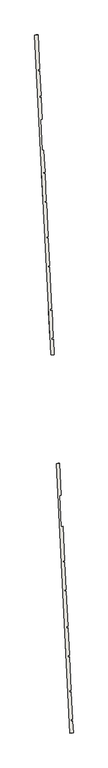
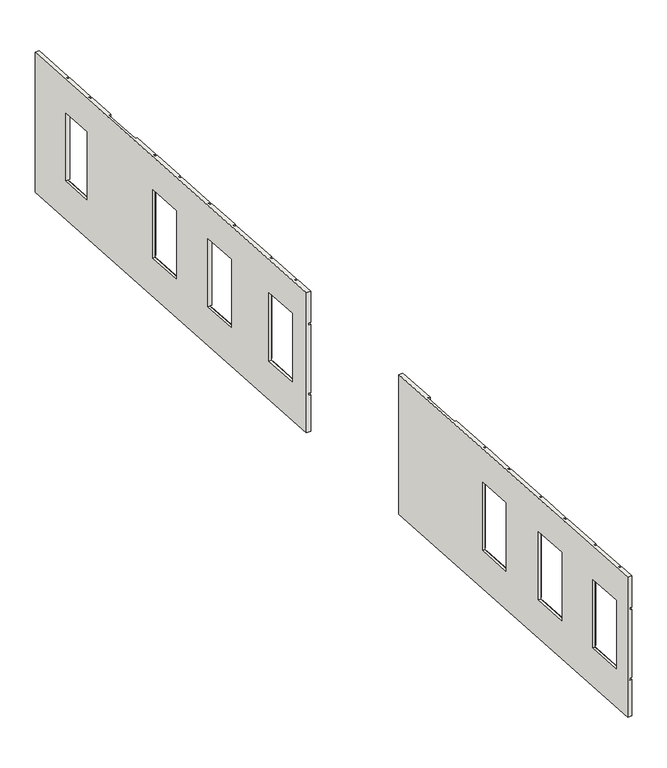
"""IFC4 building model written with IfcOpenShell, lengths in millimetres: wall geometry, kamposite : kamposite."""

from ifc_helpers import new_model, si_unit, origin, place, context, project, spatial, faceted_brep, source, transform, mapped, element, save


def wall_0bbe5232(model_context):
    return source(origin(), model_context, "Body", "Brep", [
        faceted_brep([(13372.7715568, -13203.3324529, 6000.0), (13353.306831, -12820.9275904, 6000.0), (13353.306831, -12820.9275904, 6911.5733633), (13372.7715568, -13203.3324529, 6911.5733633), (13353.306831, -12820.9275904, 9500.0), (13372.7715568, -13203.3324529, 9500.0), (13372.7715568, -13203.3324529, 8720.5733633), (13353.306831, -12820.9275904, 8720.5733633), (13094.4833823, -7736.0706906, 9500.0), (13139.1735864, -8614.0564136, 9500.0), (13139.1735864, -8614.0564136, 8720.5733633), (13094.4833823, -7736.0706906, 8720.5733633), (13141.7153374, -8663.9917669, 9500.0), (13199.2035253, -9793.4072435, 9500.0), (13199.2035253, -9793.4072435, 8720.5733633), (13141.7153374, -8663.9917669, 8720.5733633), (13201.7452764, -9843.3425967, 9500.0), (13246.4354805, -10721.3283197, 9500.0), (13246.4354805, -10721.3283197, 8720.5733633), (13201.7452764, -9843.3425967, 8720.5733633), (13248.9772315, -10771.2636729, 9500.0), (13303.5331248, -11843.0711609, 9500.0), (13303.5331248, -11843.0711609, 8720.5733633), (13248.9772315, -10771.2636729, 8720.5733633), (13306.0748759, -11893.0065142, 9500.0), (13350.76508, -12770.9922372, 9500.0), (13350.76508, -12770.9922372, 8720.5733633), (13306.0748759, -11893.0065142, 8720.5733633), (13139.1735864, -8614.0564136, 6000.0), (13094.4833823, -7736.0706906, 6000.0), (13094.4833823, -7736.0706906, 6911.5733633), (13139.1735864, -8614.0564136, 6911.5733633), (13199.2035253, -9793.4072435, 6000.0), (13141.7153374, -8663.9917669, 6000.0), (13141.7153374, -8663.9917669, 6911.5733633), (13199.2035253, -9793.4072435, 6911.5733633), (13246.4354805, -10721.3283197, 6000.0), (13201.7452764, -9843.3425967, 6000.0), (13201.7452764, -9843.3425967, 6911.5733633), (13246.4354805, -10721.3283197, 6911.5733633), (13303.5331248, -11843.0711609, 6000.0), (13248.9772315, -10771.2636729, 6000.0), (13248.9772315, -10771.2636729, 6911.5733633), (13303.5331248, -11843.0711609, 6911.5733633), (13350.76508, -12770.9922372, 6000.0), (13306.0748759, -11893.0065142, 6000.0), (13306.0748759, -11893.0065142, 6911.5733633), (13350.76508, -12770.9922372, 6911.5733633), (13350.6602996, -12768.9337164, 8670.0), (13306.0748759, -11893.0065142, 8670.0), (13306.0748759, -11893.0065142, 8670.5733633), (13350.76508, -12770.9922372, 8670.5733633), (13350.76508, -12770.9922372, 6961.5733633), (13350.6602996, -12768.9337164, 6961.5733633), (13246.4354805, -10721.3283197, 8670.0), (13201.7452764, -9843.3425967, 8670.0), (13201.7452764, -9843.3425967, 8670.5733633), (13246.4354805, -10721.3283197, 8670.5733633), (13139.1735864, -8614.0564136, 8670.0), (13094.4833823, -7736.0706906, 8670.0), (13094.4833823, -7736.0706906, 8670.5733633), (13139.1735864, -8614.0564136, 8670.5733633), (12933.6170031, -4575.6827045, 6000.0), (12933.6170031, -4575.6827045, 6911.5733633), (12985.7398324, -5599.6901091, 6911.5733633), (12985.7398324, -5599.6901091, 6000.0), (12933.6170031, -4575.6827045, 8720.5733633), (12933.6170031, -4575.6827045, 9500.0), (12985.7398324, -5599.6901091, 9500.0), (12985.7398324, -5599.6901091, 8720.5733633), (12933.6170031, -4575.6827045, 6961.5733633), (12933.6170031, -4575.6827045, 8670.5733633), (12985.7398324, -5599.6901091, 8670.5733633), (12985.7398324, -5599.6901091, 6961.5733633), (13091.9416312, -7686.1353374, 6911.5733633), (13091.9416312, -7686.1353374, 6000.0), (13036.3776474, -6594.5228575, 6000.0), (13036.3776474, -6594.5228575, 6911.5733633), (13091.9416312, -7686.1353374, 9500.0), (13091.9416312, -7686.1353374, 8720.5733633), (13036.3776474, -6594.5228575, 8720.5733633), (13036.3776474, -6594.5228575, 9500.0), (13091.9416312, -7686.1353374, 8670.5733633), (13091.9416312, -7686.1353374, 6961.5733633), (13036.3776474, -6594.5228575, 6961.5733633), (13036.3776474, -6594.5228575, 8670.5733633), (13199.2035253, -9793.4072435, 8670.5733633), (13199.2035253, -9793.4072435, 6961.5733633), (13141.7153374, -8663.9917669, 6961.5733633), (13141.7153374, -8663.9917669, 8670.5733633), (13303.5331248, -11843.0711609, 8670.5733633), (13303.5331248, -11843.0711609, 6961.5733633), (13248.9772315, -10771.2636729, 6961.5733633), (13248.9772315, -10771.2636729, 8670.5733633), (13372.7715568, -13203.3324529, 8670.5733633), (13372.7715568, -13203.3324529, 6961.5733633), (13353.306831, -12820.9275904, 6961.5733633), (13353.306831, -12820.9275904, 8670.5733633), (12833.7462967, -4580.7662066, 9500.0), (12833.7462967, -4580.7662066, 6000.0), (13272.9008504, -13208.415955, 6000.0), (13272.9008504, -13208.415955, 9500.0), (13206.0547747, -11895.1550017, 8670.0), (13250.7895931, -12774.0172185, 8670.0), (13250.7895931, -12774.0172185, 6960.0), (13206.0547747, -11895.1550017, 6960.0), (13101.8429819, -9847.8055195, 8670.0), (13146.5778003, -10726.6677363, 8670.0), (13146.5778003, -10726.6677363, 6960.0), (13101.8429819, -9847.8055195, 6960.0), (12994.5810878, -7740.5336135, 8670.0), (13039.3159062, -8619.3958302, 8670.0), (13039.3159062, -8619.3958302, 6960.0), (12994.5810878, -7740.5336135, 6960.0), (13303.3714778, -12823.4693414, 9500.0), (13300.8297268, -12773.5339882, 9500.0), (13256.1395226, -11895.5482652, 9500.0), (13253.5977716, -11845.612912, 9500.0), (13199.0418783, -10773.805424, 9500.0), (13196.5001272, -10723.8700707, 9500.0), (13151.8099231, -9845.8843478, 9500.0), (13149.2681721, -9795.9489945, 9500.0), (13091.7799842, -8666.5335179, 9500.0), (13089.2382332, -8616.5981647, 9500.0), (13044.5480291, -7738.6124417, 9500.0), (13042.006278, -7688.6770885, 9500.0), (12986.4422941, -6597.0646086, 9500.0), (12935.8044792, -5602.2318601, 9500.0), (13322.8362036, -13205.874204, 6911.5733633), (13322.8362036, -13205.874204, 6961.5733633), (13322.8362036, -13205.874204, 8670.5733633), (13322.8362036, -13205.874204, 8720.5733633), (12935.8044792, -5602.2318601, 6000.0), (12986.4422941, -6597.0646086, 6000.0), (13042.006278, -7688.6770885, 6000.0), (13044.5480291, -7738.6124417, 6000.0), (13089.2382332, -8616.5981647, 6000.0), (13091.7799842, -8666.5335179, 6000.0), (13149.2681721, -9795.9489945, 6000.0), (13151.8099231, -9845.8843478, 6000.0), (13196.5001272, -10723.8700707, 6000.0), (13199.0418783, -10773.805424, 6000.0), (13253.5977716, -11845.612912, 6000.0), (13256.1395226, -11895.5482652, 6000.0), (13300.8297268, -12773.5339882, 6000.0), (13303.3714778, -12823.4693414, 6000.0), (12883.6816499, -4578.2244556, 8720.5733633), (12883.6816499, -4578.2244556, 8670.5733633), (12883.6816499, -4578.2244556, 6961.5733633), (12883.6816499, -4578.2244556, 6911.5733633), (13255.9901279, -11892.6132507, 6960.0), (13255.9901279, -11892.6132507, 8670.0), (13300.7249463, -12771.4754674, 6960.0), (13300.7249463, -12771.4754674, 6961.5733633), (13256.1395226, -11895.5482652, 8670.0), (13151.7783351, -9845.2637685, 6960.0), (13151.7783351, -9845.2637685, 8670.0), (13196.5131535, -10724.1259852, 6960.0), (13196.5131535, -10724.1259852, 8670.0), (13151.8099231, -9845.8843478, 8670.0), (13196.5001272, -10723.8700707, 8670.0), (13044.5164411, -7737.9918624, 6960.0), (13044.5164411, -7737.9918624, 8670.0), (13089.2512594, -8616.8540792, 6960.0), (13089.2512594, -8616.8540792, 8670.0), (13044.5480291, -7738.6124417, 8670.0), (13089.2382332, -8616.5981647, 8670.0), (13044.5480291, -7738.6124417, 8720.5733633), (13089.2382332, -8616.5981647, 8720.5733633), (13091.7799842, -8666.5335179, 8720.5733633), (13149.2681721, -9795.9489945, 8720.5733633), (13151.8099231, -9845.8843478, 8720.5733633), (13196.5001272, -10723.8700707, 8720.5733633), (13199.0418783, -10773.805424, 8720.5733633), (13253.5977716, -11845.612912, 8720.5733633), (13256.1395226, -11895.5482652, 8720.5733633), (13300.8297268, -12773.5339882, 8720.5733633), (13303.3714778, -12823.4693414, 8720.5733633), (13303.3714778, -12823.4693414, 8670.5733633), (13303.3714778, -12823.4693414, 6961.5733633), (13303.3714778, -12823.4693414, 6911.5733633), (13300.8297268, -12773.5339882, 6911.5733633), (13256.1395226, -11895.5482652, 6911.5733633), (13253.5977716, -11845.612912, 6911.5733633), (13199.0418783, -10773.805424, 6911.5733633), (13196.5001272, -10723.8700707, 6911.5733633), (13151.8099231, -9845.8843478, 6911.5733633), (13149.2681721, -9795.9489945, 6911.5733633), (13091.7799842, -8666.5335179, 6911.5733633), (13089.2382332, -8616.5981647, 6911.5733633), (13044.5480291, -7738.6124417, 6911.5733633), (13042.006278, -7688.6770885, 6911.5733633), (12986.4422941, -6597.0646086, 6911.5733633), (12935.8044792, -5602.2318601, 6911.5733633), (12935.8044792, -5602.2318601, 6961.5733633), (12935.8044792, -5602.2318601, 8670.5733633), (12935.8044792, -5602.2318601, 8720.5733633), (12986.4422941, -6597.0646086, 8720.5733633), (13042.006278, -7688.6770885, 8720.5733633), (13300.8297268, -12773.5339882, 6961.5733633), (13300.8297268, -12773.5339882, 8670.5733633), (13256.1395226, -11895.5482652, 8670.5733633), (13196.5001272, -10723.8700707, 8670.5733633), (13151.8099231, -9845.8843478, 8670.5733633), (13089.2382332, -8616.5981647, 8670.5733633), (13044.5480291, -7738.6124417, 8670.5733633), (13091.7799842, -8666.5335179, 8670.5733633), (13091.7799842, -8666.5335179, 6961.5733633), (13149.2681721, -9795.9489945, 6961.5733633), (13149.2681721, -9795.9489945, 8670.5733633), (13199.0418783, -10773.805424, 8670.5733633), (13199.0418783, -10773.805424, 6961.5733633), (13253.5977716, -11845.612912, 6961.5733633), (13253.5977716, -11845.612912, 8670.5733633), (13042.006278, -7688.6770885, 8670.5733633), (12986.4422941, -6597.0646086, 8670.5733633), (12986.4422941, -6597.0646086, 6961.5733633), (13042.006278, -7688.6770885, 6961.5733633)], [[[0, 1, 2, 3]], [[4, 5, 6, 7]], [[8, 9, 10, 11]], [[12, 13, 14, 15]], [[16, 17, 18, 19]], [[20, 21, 22, 23]], [[24, 25, 26, 27]], [[28, 29, 30, 31]], [[32, 33, 34, 35]], [[36, 37, 38, 39]], [[40, 41, 42, 43]], [[44, 45, 46, 47]], [[48, 49, 50, 51, 52, 53]], [[54, 55, 56, 57]], [[58, 59, 60, 61]], [[62, 63, 64, 65]], [[66, 67, 68, 69]], [[70, 71, 72, 73]], [[74, 75, 76, 77]], [[78, 79, 80, 81]], [[82, 83, 84, 85]], [[86, 87, 88, 89]], [[90, 91, 92, 93]], [[94, 95, 96, 97]], [[98, 99, 100, 101], [102, 103, 104, 105], [106, 107, 108, 109], [110, 111, 112, 113]], [[98, 101, 5, 4, 114, 115, 25, 24, 116, 117, 21, 20, 118, 119, 17, 16, 120, 121, 13, 12, 122, 123, 9, 8, 124, 125, 78, 81, 126, 127, 68, 67]], [[101, 100, 0, 3, 128, 129, 95, 94, 130, 131, 6, 5]], [[100, 99, 62, 65, 132, 133, 76, 75, 134, 135, 29, 28, 136, 137, 33, 32, 138, 139, 37, 36, 140, 141, 41, 40, 142, 143, 45, 44, 144, 145, 1, 0]], [[99, 98, 67, 66, 146, 147, 71, 70, 148, 149, 63, 62]], [[102, 105, 150, 151]], [[105, 104, 152, 150]], [[104, 103, 48, 53, 153, 152]], [[103, 102, 151, 154, 49, 48]], [[106, 109, 155, 156]], [[109, 108, 157, 155]], [[108, 107, 158, 157]], [[107, 106, 156, 159, 55, 54, 160, 158]], [[110, 113, 161, 162]], [[113, 112, 163, 161]], [[112, 111, 164, 163]], [[111, 110, 162, 165, 59, 58, 166, 164]], [[125, 124, 167, 168, 123, 122, 169, 170, 121, 120, 171, 172, 119, 118, 173, 174, 117, 116, 175, 176, 115, 114, 177, 131, 130, 178, 179, 129, 128, 180, 145, 144, 181, 182, 143, 142, 183, 184, 141, 140, 185, 186, 139, 138, 187, 188, 137, 136, 189, 190, 135, 134, 191, 192, 133, 132, 193, 149, 148, 194, 195, 147, 146, 196, 127, 126, 197, 198], [154, 151, 150, 152, 153, 199, 200, 201], [159, 156, 155, 157, 158, 160, 202, 203], [165, 162, 161, 163, 164, 166, 204, 205], [206, 207, 208, 209], [210, 211, 212, 213], [214, 215, 216, 217]], [[124, 8, 11, 167]], [[29, 135, 190, 30]], [[59, 165, 205, 60]], [[83, 82, 214, 217]], [[78, 125, 198, 79]], [[134, 75, 74, 191]], [[89, 88, 207, 206]], [[122, 12, 15, 169]], [[33, 137, 188, 34]], [[9, 123, 168, 10]], [[136, 28, 31, 189]], [[166, 58, 61, 204]], [[120, 16, 19, 171]], [[37, 139, 186, 38]], [[55, 159, 203, 56]], [[87, 86, 209, 208]], [[13, 121, 170, 14]], [[138, 32, 35, 187]], [[93, 92, 211, 210]], [[118, 20, 23, 173]], [[41, 141, 184, 42]], [[17, 119, 172, 18]], [[140, 36, 39, 185]], [[160, 54, 57, 202]], [[116, 24, 27, 175]], [[45, 143, 182, 46]], [[49, 154, 201, 50]], [[91, 90, 213, 212]], [[21, 117, 174, 22]], [[142, 40, 43, 183]], [[97, 96, 179, 178]], [[114, 4, 7, 177]], [[1, 145, 180, 2]], [[52, 51, 200, 199]], [[25, 115, 176, 26]], [[144, 44, 47, 181]], [[148, 70, 73, 194]], [[199, 153, 53, 52]], [[208, 207, 88, 87]], [[212, 211, 92, 91]], [[83, 217, 216, 84]], [[129, 179, 96, 95]], [[63, 149, 193, 64]], [[182, 181, 47, 46]], [[184, 183, 43, 42]], [[186, 185, 39, 38]], [[188, 187, 35, 34]], [[190, 189, 31, 30]], [[191, 74, 77, 192]], [[180, 128, 3, 2]], [[146, 66, 69, 196]], [[168, 167, 11, 10]], [[170, 169, 15, 14]], [[172, 171, 19, 18]], [[174, 173, 23, 22]], [[176, 175, 27, 26]], [[79, 198, 197, 80]], [[131, 177, 7, 6]], [[71, 147, 195, 72]], [[201, 200, 51, 50]], [[203, 202, 57, 56]], [[205, 204, 61, 60]], [[206, 209, 86, 89]], [[210, 213, 90, 93]], [[214, 82, 85, 215]], [[178, 130, 94, 97]], [[133, 192, 77, 76]], [[197, 126, 81, 80]], [[216, 215, 85, 84]], [[193, 132, 65, 64]], [[195, 194, 73, 72]], [[127, 196, 69, 68]]]),
        faceted_brep([(12334.7985206, 7188.7316375, 8660.0), (12294.384679, 7982.7037538, 8660.0), (12294.384679, 7982.7037538, 6961.5733633), (12294.2460013, 7985.4282216, 6961.5733633), (12294.2460013, 7985.4282216, 8670.5733633), (12334.8694038, 7187.3390638, 8670.5733633), (12334.8694038, 7187.3390638, 6961.5733633), (12334.7985206, 7188.7316375, 6961.5733633), (12731.730894, -609.4192918, 9500.0), (12756.4224718, -1094.5111191, 9500.0), (12756.4224718, -1094.5111191, 8720.5733633), (12731.730894, -609.4192918, 8720.5733633), (12684.4989388, 318.5017844, 9500.0), (12729.1891429, -559.4839386, 9500.0), (12729.1891429, -559.4839386, 8720.5733633), (12684.4989388, 318.5017844, 8720.5733633), (12614.0478206, 1702.5875625, 9500.0), (12681.9571878, 368.4371376, 9500.0), (12681.9571878, 368.4371376, 8720.5733633), (12614.0478206, 1702.5875625, 8720.5733633), (12566.8158655, 2630.5086387, 9500.0), (12611.5060696, 1752.5229157, 9500.0), (12611.5060696, 1752.5229157, 8720.5733633), (12566.8158655, 2630.5086387, 8720.5733633), (12509.0735025, 3764.9176506, 9500.0), (12564.2741144, 2680.4439919, 9500.0), (12564.2741144, 2680.4439919, 8720.5733633), (12509.0735025, 3764.9176506, 8720.5733633), (12461.8415473, 4692.8387269, 9500.0), (12506.5317514, 3814.8530039, 9500.0), (12506.5317514, 3814.8530039, 8720.5733633), (12461.8415473, 4692.8387269, 8720.5733633), (12235.5361304, 9138.844937, 9500.0), (12291.7042503, 8035.3635748, 9500.0), (12291.7042503, 8035.3635748, 8720.5733633), (12235.5361304, 9138.844937, 8720.5733633), (12294.2460013, 7985.4282216, 9500.0), (12334.8694038, 7187.3390638, 9500.0), (12334.8694038, 7187.3390638, 8720.5733633), (12294.2460013, 7985.4282216, 8720.5733633), (12756.4224718, -1094.5111191, 6000.0), (12731.730894, -609.4192918, 6000.0), (12731.730894, -609.4192918, 6911.5733633), (12756.4224718, -1094.5111191, 6911.5733633), (12729.1891429, -559.4839386, 6000.0), (12684.4989388, 318.5017844, 6000.0), (12684.4989388, 318.5017844, 6911.5733633), (12729.1891429, -559.4839386, 6911.5733633), (12681.9571878, 368.4371376, 6000.0), (12614.0478206, 1702.5875625, 6000.0), (12614.0478206, 1702.5875625, 6911.5733633), (12681.9571878, 368.4371376, 6911.5733633), (12611.5060696, 1752.5229157, 6000.0), (12566.8158655, 2630.5086387, 6000.0), (12566.8158655, 2630.5086387, 6911.5733633), (12611.5060696, 1752.5229157, 6911.5733633), (12564.2741144, 2680.4439919, 6000.0), (12509.0735025, 3764.9176506, 6000.0), (12509.0735025, 3764.9176506, 6911.5733633), (12564.2741144, 2680.4439919, 6911.5733633), (12506.5317514, 3814.8530039, 6000.0), (12461.8415473, 4692.8387269, 6000.0), (12461.8415473, 4692.8387269, 6911.5733633), (12506.5317514, 3814.8530039, 6911.5733633), (12291.7042503, 8035.3635748, 6000.0), (12235.5361304, 9138.844937, 6000.0), (12235.5361304, 9138.844937, 8670.5733633), (12291.7042503, 8035.3635748, 8670.5733633), (12291.7042503, 8035.3635748, 6961.5733633), (12235.558487, 9138.4057197, 6961.5733633), (12235.558487, 9138.4057197, 6911.5733633), (12291.7042503, 8035.3635748, 6911.5733633), (12334.8694038, 7187.3390638, 6000.0), (12294.2460013, 7985.4282216, 6000.0), (12294.2460013, 7985.4282216, 6911.5733633), (12334.8694038, 7187.3390638, 6911.5733633), (12729.1891429, -559.4839386, 8670.0), (12684.4989388, 318.5017844, 8670.0), (12684.4989388, 318.5017844, 8670.5733633), (12729.1891429, -559.4839386, 8670.5733633), (12611.5060696, 1752.5229157, 8670.0), (12567.0384526, 2626.1356827, 8670.0), (12567.0384526, 2626.1356827, 6961.5733633), (12566.8158655, 2630.5086387, 6961.5733633), (12566.8158655, 2630.5086387, 8670.5733633), (12611.5060696, 1752.5229157, 8670.5733633), (12506.5317514, 3814.8530039, 8670.0), (12461.8415473, 4692.8387269, 8670.0), (12461.8415473, 4692.8387269, 8670.5733633), (12506.5317514, 3814.8530039, 8670.5733633), (12756.4224718, -1094.5111191, 8670.5733633), (12756.4224718, -1094.5111191, 6961.5733633), (12731.730894, -609.4192918, 6961.5733633), (12731.730894, -609.4192918, 8670.5733633), (12681.9571878, 368.4371376, 8670.5733633), (12681.9571878, 368.4371376, 6961.5733633), (12614.0478206, 1702.5875625, 6961.5733633), (12614.0478206, 1702.5875625, 8670.5733633), (12564.2741144, 2680.4439919, 8670.5733633), (12564.2741144, 2680.4439919, 6961.5733633), (12509.0735025, 3764.9176506, 6961.5733633), (12509.0735025, 3764.9176506, 8670.5733633), (12459.2997963, 4742.7740801, 6911.5733633), (12459.2997963, 4742.7740801, 6000.0), (12423.674383, 5442.6725211, 6000.0), (12423.674383, 5442.6725211, 6911.5733633), (12459.2997963, 4742.7740801, 8670.5733633), (12459.2997963, 4742.7740801, 6961.5733633), (12423.674383, 5442.6725211, 6961.5733633), (12423.674383, 5442.6725211, 8670.5733633), (12459.2997963, 4742.7740801, 9500.0), (12459.2997963, 4742.7740801, 8720.5733633), (12423.674383, 5442.6725211, 8720.5733633), (12423.674383, 5442.6725211, 9500.0), (12337.4111548, 7137.4037105, 6000.0), (12337.4111548, 7137.4037105, 6911.5733633), (12373.0365681, 6437.5052695, 6911.5733633), (12373.0365681, 6437.5052695, 6000.0), (12337.4111548, 7137.4037105, 6961.5733633), (12337.4111548, 7137.4037105, 8670.5733633), (12373.0365681, 6437.5052695, 8670.5733633), (12373.0365681, 6437.5052695, 6961.5733633), (12337.4111548, 7137.4037105, 8720.5733633), (12337.4111548, 7137.4037105, 9500.0), (12373.0365681, 6437.5052695, 9500.0), (12373.0365681, 6437.5052695, 8720.5733633), (12135.665424, 9133.7614349, 9500.0), (12135.665424, 9133.7614349, 6000.0), (12656.5517653, -1099.5946212, 6000.0), (12656.5517653, -1099.5946212, 9500.0), (12194.5139726, 7977.6202517, 8660.0), (12234.9278142, 7183.6481354, 8660.0), (12234.9278142, 7183.6481354, 6960.0), (12194.5139726, 7977.6202517, 6960.0), (12584.5966444, 314.0388616, 8670.0), (12629.3314627, -564.8233551, 8670.0), (12629.3314627, -564.8233551, 6960.0), (12584.5966444, 314.0388616, 6960.0), (12467.1677461, 2621.0521806, 8670.0), (12511.9025645, 1742.1899638, 8670.0), (12511.9025645, 1742.1899638, 6960.0), (12467.1677461, 2621.0521806, 6960.0), (12361.9392529, 4688.375804, 8670.0), (12406.6740712, 3809.5135873, 8670.0), (12406.6740712, 3809.5135873, 6960.0), (12361.9392529, 4688.375804, 6960.0), (12681.7955408, -611.9610428, 9500.0), (12679.2537897, -562.0256896, 9500.0), (12634.5635856, 315.9600334, 9500.0), (12632.0218345, 365.8953866, 9500.0), (12564.1124674, 1700.0458114, 9500.0), (12561.5707163, 1749.9811647, 9500.0), (12516.8805122, 2627.9668877, 9500.0), (12514.3387612, 2677.9022409, 9500.0), (12459.1381493, 3762.3758996, 9500.0), (12456.5963982, 3812.3112528, 9500.0), (12411.9061941, 4690.2969758, 9500.0), (12409.364443, 4740.232329, 9500.0), (12373.7390298, 5440.13077, 9500.0), (12323.1012148, 6434.9635185, 9500.0), (12287.4758016, 7134.8619595, 9500.0), (12284.9340506, 7184.7973127, 9500.0), (12244.3106481, 7982.8864705, 9500.0), (12241.7688971, 8032.8218238, 9500.0), (12706.4871185, -1097.0528701, 6911.5733633), (12706.4871185, -1097.0528701, 6961.5733633), (12706.4871185, -1097.0528701, 8670.5733633), (12706.4871185, -1097.0528701, 8720.5733633), (12241.7688971, 8032.8218238, 6000.0), (12244.3106481, 7982.8864705, 6000.0), (12284.9340506, 7184.7973127, 6000.0), (12287.4758016, 7134.8619595, 6000.0), (12323.1012148, 6434.9635185, 6000.0), (12373.7390298, 5440.13077, 6000.0), (12409.364443, 4740.232329, 6000.0), (12411.9061941, 4690.2969758, 6000.0), (12456.5963982, 3812.3112528, 6000.0), (12459.1381493, 3762.3758996, 6000.0), (12514.3387612, 2677.9022409, 6000.0), (12516.8805122, 2627.9668877, 6000.0), (12561.5707163, 1749.9811647, 6000.0), (12564.1124674, 1700.0458114, 6000.0), (12632.0218345, 365.8953866, 6000.0), (12634.5635856, 315.9600334, 6000.0), (12679.2537897, -562.0256896, 6000.0), (12681.7955408, -611.9610428, 6000.0), (12185.6007772, 9136.3031859, 8720.5733633), (12185.6007772, 9136.3031859, 8670.5733633), (12244.4493258, 7980.1620027, 6960.0), (12244.4493258, 7980.1620027, 6961.5733633), (12284.8631674, 7186.1898865, 6960.0), (12284.8631674, 7186.1898865, 6961.5733633), (12634.5319976, 316.5806127, 6960.0), (12634.5319976, 316.5806127, 8670.0), (12679.266816, -562.2816041, 6960.0), (12679.266816, -562.2816041, 8670.0), (12634.5635856, 315.9600334, 8670.0), (12679.2537897, -562.0256896, 8670.0), (12517.1030993, 2623.5939316, 6960.0), (12517.1030993, 2623.5939316, 6961.5733633), (12561.8379177, 1744.7317149, 6960.0), (12561.8379177, 1744.7317149, 8670.0), (12561.5707163, 1749.9811647, 8670.0), (12411.8746061, 4690.9175551, 6960.0), (12411.8746061, 4690.9175551, 8670.0), (12456.6094245, 3812.0553383, 6960.0), (12456.6094245, 3812.0553383, 8670.0), (12411.9061941, 4690.2969758, 8670.0), (12456.5963982, 3812.3112528, 8670.0), (12634.5635856, 315.9600334, 8720.5733633), (12679.2537897, -562.0256896, 8720.5733633), (12681.7955408, -611.9610428, 8720.5733633), (12681.7955408, -611.9610428, 8670.5733633), (12681.7955408, -611.9610428, 6961.5733633), (12681.7955408, -611.9610428, 6911.5733633), (12679.2537897, -562.0256896, 6911.5733633), (12634.5635856, 315.9600334, 6911.5733633), (12632.0218345, 365.8953866, 6911.5733633), (12564.1124674, 1700.0458114, 6911.5733633), (12561.5707163, 1749.9811647, 6911.5733633), (12516.8805122, 2627.9668877, 6911.5733633), (12514.3387612, 2677.9022409, 6911.5733633), (12459.1381493, 3762.3758996, 6911.5733633), (12456.5963982, 3812.3112528, 6911.5733633), (12411.9061941, 4690.2969758, 6911.5733633), (12409.364443, 4740.232329, 6911.5733633), (12373.7390298, 5440.13077, 6911.5733633), (12323.1012148, 6434.9635185, 6911.5733633), (12287.4758016, 7134.8619595, 6911.5733633), (12284.9340506, 7184.7973127, 6911.5733633), (12244.3106481, 7982.8864705, 6911.5733633), (12241.7688971, 8032.8218238, 6911.5733633), (12185.6231337, 9135.8639687, 6911.5733633), (12185.6231337, 9135.8639687, 6961.5733633), (12241.7688971, 8032.8218238, 6961.5733633), (12241.7688971, 8032.8218238, 8670.5733633), (12241.7688971, 8032.8218238, 8720.5733633), (12244.3106481, 7982.8864705, 8720.5733633), (12284.9340506, 7184.7973127, 8720.5733633), (12287.4758016, 7134.8619595, 8720.5733633), (12323.1012148, 6434.9635185, 8720.5733633), (12373.7390298, 5440.13077, 8720.5733633), (12409.364443, 4740.232329, 8720.5733633), (12411.9061941, 4690.2969758, 8720.5733633), (12456.5963982, 3812.3112528, 8720.5733633), (12459.1381493, 3762.3758996, 8720.5733633), (12514.3387612, 2677.9022409, 8720.5733633), (12516.8805122, 2627.9668877, 8720.5733633), (12561.5707163, 1749.9811647, 8720.5733633), (12564.1124674, 1700.0458114, 8720.5733633), (12632.0218345, 365.8953866, 8720.5733633), (12679.2537897, -562.0256896, 8670.5733633), (12634.5635856, 315.9600334, 8670.5733633), (12561.5707163, 1749.9811647, 8670.5733633), (12516.8805122, 2627.9668877, 8670.5733633), (12516.8805122, 2627.9668877, 6961.5733633), (12456.5963982, 3812.3112528, 8670.5733633), (12411.9061941, 4690.2969758, 8670.5733633), (12632.0218345, 365.8953866, 6961.5733633), (12632.0218345, 365.8953866, 8670.5733633), (12564.1124674, 1700.0458114, 8670.5733633), (12564.1124674, 1700.0458114, 6961.5733633), (12514.3387612, 2677.9022409, 6961.5733633), (12514.3387612, 2677.9022409, 8670.5733633), (12459.1381493, 3762.3758996, 8670.5733633), (12459.1381493, 3762.3758996, 6961.5733633), (12409.364443, 4740.232329, 6961.5733633), (12409.364443, 4740.232329, 8670.5733633), (12373.7390298, 5440.13077, 8670.5733633), (12373.7390298, 5440.13077, 6961.5733633), (12244.3106481, 7982.8864705, 8670.5733633), (12244.3106481, 7982.8864705, 6961.5733633), (12284.9340506, 7184.7973127, 6961.5733633), (12284.9340506, 7184.7973127, 8670.5733633), (12287.4758016, 7134.8619595, 6961.5733633), (12323.1012148, 6434.9635185, 6961.5733633), (12323.1012148, 6434.9635185, 8670.5733633), (12287.4758016, 7134.8619595, 8670.5733633)], [[[0, 1, 2, 3, 4, 5, 6, 7]], [[8, 9, 10, 11]], [[12, 13, 14, 15]], [[16, 17, 18, 19]], [[20, 21, 22, 23]], [[24, 25, 26, 27]], [[28, 29, 30, 31]], [[32, 33, 34, 35]], [[36, 37, 38, 39]], [[40, 41, 42, 43]], [[44, 45, 46, 47]], [[48, 49, 50, 51]], [[52, 53, 54, 55]], [[56, 57, 58, 59]], [[60, 61, 62, 63]], [[64, 65, 66, 67, 68, 69, 70, 71]], [[72, 73, 74, 75]], [[76, 77, 78, 79]], [[80, 81, 82, 83, 84, 85]], [[86, 87, 88, 89]], [[90, 91, 92, 93]], [[94, 95, 96, 97]], [[98, 99, 100, 101]], [[102, 103, 104, 105]], [[106, 107, 108, 109]], [[110, 111, 112, 113]], [[114, 115, 116, 117]], [[118, 119, 120, 121]], [[122, 123, 124, 125]], [[126, 127, 128, 129], [130, 131, 132, 133], [134, 135, 136, 137], [138, 139, 140, 141], [142, 143, 144, 145]], [[126, 129, 9, 8, 146, 147, 13, 12, 148, 149, 17, 16, 150, 151, 21, 20, 152, 153, 25, 24, 154, 155, 29, 28, 156, 157, 110, 113, 158, 159, 124, 123, 160, 161, 37, 36, 162, 163, 33, 32]], [[129, 128, 40, 43, 164, 165, 91, 90, 166, 167, 10, 9]], [[128, 127, 65, 64, 168, 169, 73, 72, 170, 171, 114, 117, 172, 173, 104, 103, 174, 175, 61, 60, 176, 177, 57, 56, 178, 179, 53, 52, 180, 181, 49, 48, 182, 183, 45, 44, 184, 185, 41, 40]], [[127, 126, 32, 35, 186, 187, 66, 65]], [[130, 133, 188, 189, 2, 1]], [[133, 132, 190, 188]], [[132, 131, 0, 7, 191, 190]], [[1, 0, 131, 130]], [[134, 137, 192, 193]], [[137, 136, 194, 192]], [[136, 135, 195, 194]], [[135, 134, 193, 196, 77, 76, 197, 195]], [[138, 141, 198, 199, 82, 81]], [[141, 140, 200, 198]], [[140, 139, 201, 200]], [[139, 138, 81, 80, 202, 201]], [[142, 145, 203, 204]], [[145, 144, 205, 203]], [[144, 143, 206, 205]], [[143, 142, 204, 207, 87, 86, 208, 206]], [[149, 148, 209, 210, 147, 146, 211, 167, 166, 212, 213, 165, 164, 214, 185, 184, 215, 216, 183, 182, 217, 218, 181, 180, 219, 220, 179, 178, 221, 222, 177, 176, 223, 224, 175, 174, 225, 226, 173, 172, 227, 228, 171, 170, 229, 230, 169, 168, 231, 232, 233, 234, 235, 187, 186, 236, 163, 162, 237, 238, 161, 160, 239, 240, 159, 158, 241, 242, 157, 156, 243, 244, 155, 154, 245, 246, 153, 152, 247, 248, 151, 150, 249, 250], [196, 193, 192, 194, 195, 197, 251, 252], [201, 202, 253, 254, 255, 199, 198, 200], [207, 204, 203, 205, 206, 208, 256, 257], [258, 259, 260, 261], [262, 263, 264, 265], [266, 267, 268, 269], [270, 271, 189, 188, 190, 191, 272, 273], [274, 275, 276, 277]], [[148, 12, 15, 209]], [[45, 183, 216, 46]], [[77, 196, 252, 78]], [[95, 94, 259, 258]], [[17, 149, 250, 18]], [[182, 48, 51, 217]], [[93, 92, 213, 212]], [[146, 8, 11, 211]], [[41, 185, 214, 42]], [[13, 147, 210, 14]], [[184, 44, 47, 215]], [[197, 76, 79, 251]], [[84, 83, 255, 254]], [[152, 20, 23, 247]], [[53, 179, 220, 54]], [[99, 98, 263, 262]], [[25, 153, 246, 26]], [[178, 56, 59, 221]], [[97, 96, 261, 260]], [[150, 16, 19, 249]], [[49, 181, 218, 50]], [[21, 151, 248, 22]], [[180, 52, 55, 219]], [[202, 80, 85, 253]], [[156, 28, 31, 243]], [[61, 175, 224, 62]], [[87, 207, 257, 88]], [[107, 106, 267, 266]], [[110, 157, 242, 111]], [[174, 103, 102, 225]], [[101, 100, 265, 264]], [[154, 24, 27, 245]], [[57, 177, 222, 58]], [[29, 155, 244, 30]], [[176, 60, 63, 223]], [[208, 86, 89, 256]], [[4, 3, 271, 270]], [[162, 36, 39, 237]], [[73, 169, 230, 74]], [[68, 67, 235, 234]], [[33, 163, 236, 34]], [[168, 64, 71, 231]], [[119, 118, 274, 277]], [[160, 123, 122, 239]], [[114, 171, 228, 115]], [[6, 5, 273, 272]], [[37, 161, 238, 38]], [[170, 72, 75, 229]], [[214, 164, 43, 42]], [[216, 215, 47, 46]], [[218, 217, 51, 50]], [[220, 219, 55, 54]], [[222, 221, 59, 58]], [[224, 223, 63, 62]], [[230, 229, 75, 74]], [[225, 102, 105, 226]], [[115, 228, 227, 116]], [[70, 232, 231, 71]], [[165, 213, 92, 91]], [[199, 255, 83, 82]], [[258, 261, 96, 95]], [[262, 265, 100, 99]], [[189, 271, 3, 2]], [[272, 191, 7, 6]], [[107, 266, 269, 108]], [[274, 118, 121, 275]], [[233, 69, 68, 234]], [[212, 166, 90, 93]], [[252, 251, 79, 78]], [[254, 253, 85, 84]], [[257, 256, 89, 88]], [[260, 259, 94, 97]], [[264, 263, 98, 101]], [[270, 273, 5, 4]], [[267, 106, 109, 268]], [[119, 277, 276, 120]], [[187, 235, 67, 66]], [[210, 209, 15, 14]], [[167, 211, 11, 10]], [[238, 237, 39, 38]], [[244, 243, 31, 30]], [[246, 245, 27, 26]], [[248, 247, 23, 22]], [[250, 249, 19, 18]], [[111, 242, 241, 112]], [[239, 122, 125, 240]], [[236, 186, 35, 34]], [[173, 226, 105, 104]], [[241, 158, 113, 112]], [[269, 268, 109, 108]], [[227, 172, 117, 116]], [[159, 240, 125, 124]], [[276, 275, 121, 120]], [[233, 232, 70, 69]]]),
    ])


if __name__ == "__main__":
    model = new_model("IFC4")
    model_context = context("Model", 3, world=origin())
    ifc_project = project(units=[si_unit("LENGTHUNIT", "METRE", prefix="MILLI")], contexts=[model_context])
    site = spatial("IfcSite", under=ifc_project)
    building = spatial("IfcBuilding", under=site)
    placement = place(None, origin())
    wall_shape = wall_0bbe5232(model_context)
    element("IfcWall", 1, ObjectType="kamposite : kamposite", at=placement, inside=building, context=model_context, shape_type="MappedRepresentation", body=[
        mapped(wall_shape, transform((0.0, 0.0, 0.0), x_axis=(1.0, 0.0, 0.0), y_axis=(0.0, 1.0, 0.0), z_axis=(0.0, 0.0, 1.0))),
    ])
    save(model, "model.ifc")
